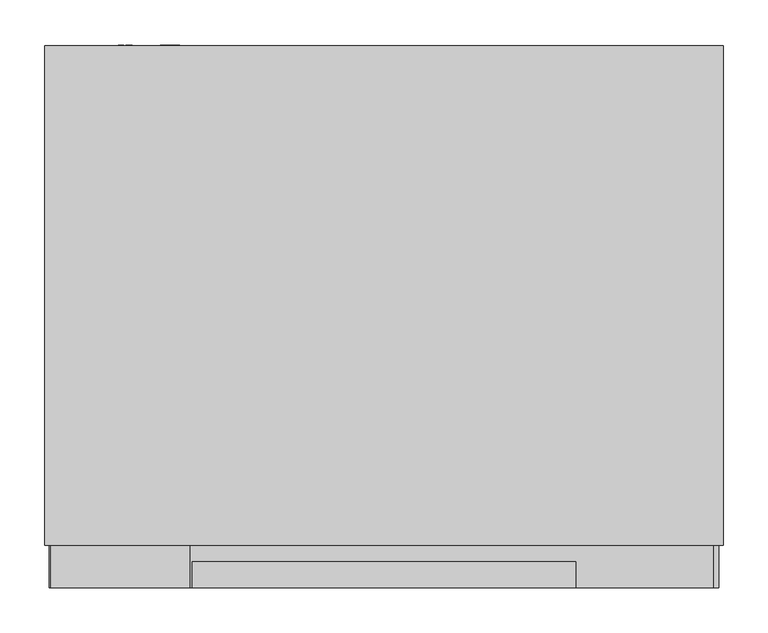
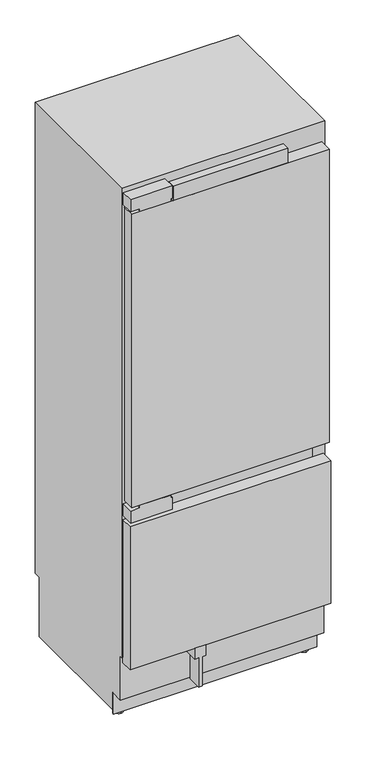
"""IFC4 building model written with IfcOpenShell, lengths in millimetres: proxy geometry, 11502870_USA_KF2812Vi : 38281201_USA_11502870_KF2812Vi."""

from ifc_helpers import new_model, si_unit, point, frame, frame_2d, origin, place, context, project, spatial, polyline, circle_curve, trimmed, segment, composite_curve, outline, extrude, source, transform, mapped, element, save
from ifc_brep_helpers import plane_surface, cylinder_surface, advanced_brep


def specialty_equipment_cfb43e8a(model_context):
    return source(origin(), model_context, "Body", "SolidModel", [
        extrude(outline(polyline([(247.0, -133.0), (205.0, -133.0), (205.0, -118.5), (90.0, -118.5), (90.0, -105.5), (205.0, -105.5), (205.0, -91.0), (247.0, -91.0), (247.0, -133.0)])), frame((0.0, 0.0, 0.0), z_axis=(0.0, 1.0, 0.0), x_axis=(0.0, 0.0, 1.0)), (0.0, 0.0, 1.0), 54.0),
        extrude(outline(polyline([(-367.0, 47.0), (367.0, 47.0), (367.0, 0.0), (-367.0, 0.0), (-367.0, 47.0)])), frame((0.0, 0.0, 883.0), z_axis=(0.0, 0.0, 1.0), x_axis=(1.0, 0.0, 0.0)), (0.0, 0.0, 1.0), 1153.0),
        extrude(outline(polyline([(-373.0, 47.0), (373.0, 47.0), (373.0, 0.0), (-373.0, 0.0), (-373.0, 47.0)])), frame((0.0, 0.0, 247.0), z_axis=(0.0, 0.0, 1.0), x_axis=(1.0, 0.0, 0.0)), (0.0, 0.0, 1.0), 562.0),
        extrude(outline(polyline([(-213.5, 29.0), (213.5, 29.0), (213.5, 0.0), (-213.5, 0.0), (-213.5, 29.0)])), frame((0.0, 0.0, 2036.0), z_axis=(0.0, 0.0, 1.0), x_axis=(1.0, 0.0, 0.0)), (0.0, 0.0, 1.0), 56.0),
        extrude(outline(polyline([(180.5, 1973.4), (217.625, 1914.0), (216.4457524, 1914.0), (179.3207524, 1973.4), (180.5, 1973.4)])), frame((-69.0, 0.0, 0.0), z_axis=(1.0, 0.0, 0.0), x_axis=(0.0, 1.0, 0.0)), (0.0, 0.0, 1.0), 138.0),
        extrude(outline(polyline([(544.0, 1998.0), (544.0, 1796.0), (474.0, 1796.0), (433.0, 1907.0), (222.0, 1907.0), (177.0, 1979.0), (129.0, 1998.0), (544.0, 1998.0)])), frame((-332.0, 0.0, 0.0), z_axis=(1.0, 0.0, 0.0), x_axis=(0.0, 1.0, 0.0)), (0.0, 0.0, 1.0), 664.0),
        extrude(outline(polyline([(-332.0, 544.0), (332.0, 544.0), (332.0, 519.0), (-332.0, 519.0), (-332.0, 544.0)])), frame((0.0, 0.0, 303.0), z_axis=(0.0, 0.0, 1.0), x_axis=(1.0, 0.0, 0.0)), (0.0, 0.0, 1.0), 467.0),
        extrude(outline(polyline([(-332.0, 544.0), (332.0, 544.0), (332.0, 47.0), (-332.0, 47.0), (-332.0, 544.0)])), frame((0.0, 0.0, 770.0), z_axis=(0.0, 0.0, 1.0), x_axis=(1.0, 0.0, 0.0)), (0.0, 0.0, 1.0), 144.0),
        extrude(outline(polyline([(46.0510837, -237.101717), (37.4134902, -239.1745179), (46.0453554, -241.6868463), (46.0453554, -243.5601414), (37.4089549, -246.0799633), (46.0493903, -248.1581876), (46.0493903, -249.4649805), (36.0005458, -246.7156324), (36.0005458, -245.372208), (44.8261022, -242.6342221), (35.9987467, -240.0620509), (35.9987287, -238.5451466), (46.0510837, -235.800191), (46.0510837, -237.101717)])), frame((0.0, 604.0, 0.0), z_axis=(0.0, 1.0, 0.0), x_axis=(0.0, 0.0, 1.0)), (0.0, 0.0, 1.0), 1.0),
        extrude(outline(polyline([(46.0485238, -228.7401503), (41.1363122, -228.7401503), (46.0468162, -233.884602), (46.0468162, -235.6328316), (41.9156889, -231.3260313), (36.000035, -235.8032231), (36.000035, -234.2795519), (41.0742849, -230.4391666), (39.4525334, -228.7395503), (35.9999292, -228.7395503), (35.9999292, -227.4795491), (46.0485238, -227.4795491), (46.0485238, -228.7401503)])), frame((0.0, 604.0, 0.0), z_axis=(0.0, 1.0, 0.0), x_axis=(0.0, 0.0, 1.0)), (0.0, 0.0, 1.0), 1.0),
        extrude(outline(composite_curve([segment(trimmed(circle_curve(frame_2d((41.0, -238.0)), 7.5), [point((33.5, -238.0))], [point((48.5, -238.0))], False, "CARTESIAN"), True, "CONTINUOUS"), segment(trimmed(circle_curve(frame_2d((41.0, -238.0)), 7.5), [point((48.5, -238.0))], [point((33.5, -238.0))], False, "CARTESIAN"), True, "CONTINUOUS")], self_intersect=False)), frame((0.0, 577.0, 0.0), z_axis=(0.0, 1.0, 0.0), x_axis=(0.0, 0.0, 1.0)), (0.0, 0.0, 1.0), 27.0),
        extrude(outline(polyline([(2095.0, -371.5), (2047.0, -371.5), (2047.0, -337.5), (2036.5, -337.5), (2036.5, -222.5), (2047.0, -222.5), (2047.0, -216.5), (2095.0, -216.5), (2095.0, -371.5)])), frame((0.0, 0.0, 0.0), z_axis=(0.0, 1.0, 0.0), x_axis=(0.0, 0.0, 1.0)), (0.0, 0.0, 1.0), 47.0),
        extrude(outline(polyline([(871.0, -371.5), (823.0, -371.5), (823.0, -216.5), (871.0, -216.5), (871.0, -222.5), (881.0, -222.5), (881.0, -337.5), (871.0, -337.5), (871.0, -371.5)])), frame((0.0, 0.0, 0.0), z_axis=(0.0, 1.0, 0.0), x_axis=(0.0, 0.0, 1.0)), (0.0, 0.0, 1.0), 47.0),
        extrude(outline(polyline([(99.0373308, -287.7645771), (97.7615342, -287.7645771), (97.7615342, -281.8195541), (94.7968516, -281.8195541), (94.7968516, -287.469579), (93.5246295, -287.469579), (93.5246295, -281.8415693), (90.2570046, -281.8415693), (90.2570046, -287.9619689), (88.9546219, -287.9619689), (88.9546219, -280.5443524), (99.0373308, -280.5443524), (99.0373308, -287.7645771)])), frame((0.0, 604.0, 0.0), z_axis=(0.0, 1.0, 0.0), x_axis=(0.0, 0.0, 1.0)), (0.0, 0.0, 1.0), 1.0),
        extrude(outline(polyline([(99.0458, -291.0619704), (90.2663944, -291.0619704), (90.2663944, -296.1145879), (89.0134802, -296.1145879), (89.0134802, -289.8423809), (99.0458, -289.8423809), (99.0458, -291.0619704)])), frame((0.0, 604.0, 0.0), z_axis=(0.0, 1.0, 0.0), x_axis=(0.0, 0.0, 1.0)), (0.0, 0.0, 1.0), 1.0),
        extrude(outline(composite_curve([segment(trimmed(circle_curve(frame_2d((94.0, -288.0)), 7.5), [point((86.5, -288.0))], [point((101.5, -288.0))], False, "CARTESIAN"), True, "CONTINUOUS"), segment(trimmed(circle_curve(frame_2d((94.0, -288.0)), 7.5), [point((101.5, -288.0))], [point((86.5, -288.0))], False, "CARTESIAN"), True, "CONTINUOUS")], self_intersect=False)), frame((0.0, 577.0, 0.0), z_axis=(0.0, 1.0, 0.0), x_axis=(0.0, 0.0, 1.0)), (0.0, 0.0, 1.0), 27.0),
        extrude(outline(polyline([(-378.0, 104.0), (378.0, 104.0), (378.0, 99.0), (-378.0, 99.0), (-378.0, 104.0)])), frame((0.0, 0.0, 14.0), z_axis=(0.0, 0.0, 1.0), x_axis=(1.0, 0.0, 0.0)), (0.0, 0.0, 1.0), 83.0),
        advanced_brep(
        [(-344.0, 139.0, 0.0), (-344.0, 109.0, 0.0), (-344.0, 139.0, 7.0), (-344.0, 109.0, 7.0), (-344.0, 128.7, 7.0), (-344.0, 119.3, 7.0), (-344.0, 128.7, 28.0), (-344.0, 119.3, 28.0)],
        [
            (0, 1, circle_curve(frame((-344.0, 124.0, 0.0), z_axis=(0.0, 0.0, -1.0), x_axis=(1.0, 0.0, 0.0)), 15.0)),
            (1, 0, circle_curve(frame((-344.0, 124.0, 0.0), z_axis=(0.0, 0.0, -1.0), x_axis=(1.0, 0.0, 0.0)), 15.0)),
            (2, 3, circle_curve(frame((-344.0, 124.0, 7.0), z_axis=(0.0, 0.0, 1.0), x_axis=(1.0, 0.0, 0.0)), 15.0)),
            (3, 2, circle_curve(frame((-344.0, 124.0, 7.0), z_axis=(0.0, 0.0, 1.0), x_axis=(1.0, 0.0, 0.0)), 15.0)),
            (4, 5, circle_curve(frame((-344.0, 124.0, 7.0), z_axis=(0.0, 0.0, -1.0), x_axis=(0.0, -1.0, 0.0)), 4.7)),
            (5, 4, circle_curve(frame((-344.0, 124.0, 7.0), z_axis=(0.0, 0.0, -1.0), x_axis=(0.0, -1.0, 0.0)), 4.7)),
            (0, 2),
            (3, 1),
            (6, 7, circle_curve(frame((-344.0, 124.0, 28.0), z_axis=(0.0, 0.0, 1.0), x_axis=(0.0, -1.0, 0.0)), 4.7)),
            (7, 6, circle_curve(frame((-344.0, 124.0, 28.0), z_axis=(0.0, 0.0, 1.0), x_axis=(0.0, -1.0, 0.0)), 4.7)),
            (7, 5),
            (4, 6),
        ],
        [
            plane_surface(frame((-329.0, 124.0, 0.0), z_axis=(0.0, 0.0, -1.0), x_axis=(0.0, -1.0, 0.0))),
            plane_surface(frame((-329.0, 124.0, 7.0), z_axis=(0.0, 0.0, 1.0), x_axis=(0.0, 1.0, 0.0))),
            cylinder_surface(frame((-344.0, 124.0, 7.0), z_axis=(0.0, 0.0, -1.0), x_axis=(1.0, 0.0, 0.0)), 15.0),
            plane_surface(frame((-344.0, 119.3, 28.0), z_axis=(0.0, 0.0, 1.0), x_axis=(1.0, 0.0, 0.0))),
            cylinder_surface(frame((-344.0, 124.0, 28.0), z_axis=(0.0, 0.0, -1.0), x_axis=(0.0, -1.0, 0.0)), 4.7),
        ],
        [
            (0, [[1, 2]]),
            (1, [[3, 4], [5, 6]]),
            (2, [[-1, 7, -4, 8]]),
            (2, [[-2, -8, -3, -7]]),
            (3, [[9, 10]]),
            (4, [[-10, 11, -5, 12]]),
            (4, [[-9, -12, -6, -11]]),
        ],
    ),
        advanced_brep(
        [(344.0, 139.0, 0.0), (344.0, 109.0, 0.0), (344.0, 139.0, 7.0), (344.0, 109.0, 7.0), (344.0, 128.7, 7.0), (344.0, 119.3, 7.0), (344.0, 128.7, 28.0), (344.0, 119.3, 28.0)],
        [
            (0, 1, circle_curve(frame((344.0, 124.0, 0.0), z_axis=(0.0, 0.0, -1.0), x_axis=(1.0, 0.0, 0.0)), 15.0)),
            (1, 0, circle_curve(frame((344.0, 124.0, 0.0), z_axis=(0.0, 0.0, -1.0), x_axis=(1.0, 0.0, 0.0)), 15.0)),
            (2, 3, circle_curve(frame((344.0, 124.0, 7.0), z_axis=(0.0, 0.0, 1.0), x_axis=(1.0, 0.0, 0.0)), 15.0)),
            (3, 2, circle_curve(frame((344.0, 124.0, 7.0), z_axis=(0.0, 0.0, 1.0), x_axis=(1.0, 0.0, 0.0)), 15.0)),
            (4, 5, circle_curve(frame((344.0, 124.0, 7.0), z_axis=(0.0, 0.0, -1.0), x_axis=(0.0, -1.0, 0.0)), 4.7)),
            (5, 4, circle_curve(frame((344.0, 124.0, 7.0), z_axis=(0.0, 0.0, -1.0), x_axis=(0.0, -1.0, 0.0)), 4.7)),
            (0, 2),
            (3, 1),
            (6, 7, circle_curve(frame((344.0, 124.0, 28.0), z_axis=(0.0, 0.0, 1.0), x_axis=(0.0, -1.0, 0.0)), 4.7)),
            (7, 6, circle_curve(frame((344.0, 124.0, 28.0), z_axis=(0.0, 0.0, 1.0), x_axis=(0.0, -1.0, 0.0)), 4.7)),
            (7, 5),
            (4, 6),
        ],
        [
            plane_surface(frame((-329.0, 124.0, 0.0), z_axis=(0.0, 0.0, -1.0), x_axis=(0.0, -1.0, 0.0))),
            plane_surface(frame((-329.0, 124.0, 7.0), z_axis=(0.0, 0.0, 1.0), x_axis=(0.0, 1.0, 0.0))),
            cylinder_surface(frame((344.0, 124.0, 7.0), z_axis=(0.0, 0.0, -1.0), x_axis=(1.0, 0.0, 0.0)), 15.0),
            plane_surface(frame((-344.0, 119.3, 28.0), z_axis=(0.0, 0.0, 1.0), x_axis=(1.0, 0.0, 0.0))),
            cylinder_surface(frame((344.0, 124.0, 28.0), z_axis=(0.0, 0.0, -1.0), x_axis=(0.0, -1.0, 0.0)), 4.7),
        ],
        [
            (0, [[1, 2]]),
            (1, [[3, 4], [5, 6]]),
            (2, [[-1, 7, -4, 8]]),
            (2, [[-2, -8, -3, -7]]),
            (3, [[9, 10]]),
            (4, [[-10, 11, -5, 12]]),
            (4, [[-9, -12, -6, -11]]),
        ],
    ),
        advanced_brep(
        [(378.0, 47.0, 2114.0), (378.0, 47.0, 267.0), (378.0, 54.0, 267.0), (378.0, 54.0, 97.0), (378.0, 104.0, 97.0), (378.0, 104.0, 28.0), (378.0, 577.0, 28.0), (378.0, 577.0, 263.0), (378.0, 604.0, 263.0), (378.0, 604.0, 2114.0), (-378.0, 47.0, 2114.0), (-378.0, 604.0, 2114.0), (-378.0, 604.0, 263.0), (-378.0, 577.0, 263.0), (-378.0, 577.0, 28.0), (-378.0, 104.0, 28.0), (-378.0, 104.0, 97.0), (-378.0, 54.0, 97.0), (-378.0, 54.0, 267.0), (-378.0, 47.0, 267.0), (318.0, 577.0, 28.0), (318.0, 577.0, 14.0), (-318.0, 577.0, 14.0), (-318.0, 577.0, 28.0), (318.0, 104.0, 14.0), (-318.0, 104.0, 14.0), (-318.0, 104.0, 28.0), (318.0, 104.0, 28.0), (332.0, 47.0, 1998.0), (332.0, 47.0, 303.0), (-332.0, 47.0, 303.0), (-332.0, 47.0, 1998.0), (332.0, 544.0, 1998.0), (-332.0, 544.0, 1998.0), (-332.0, 544.0, 303.0), (332.0, 544.0, 303.0), (-336.5, 202.8193473, 28.0), (-355.5, 202.8193473, 28.0), (-355.5, 153.1806527, 28.0), (-336.5, 153.1806527, 28.0), (-356.0, 525.8193473, 28.0), (-356.0, 476.1806527, 28.0), (-340.0, 476.1806527, 28.0), (-340.0, 525.8193473, 28.0), (355.5, 153.1806527, 28.0), (355.5, 202.8193473, 28.0), (336.5, 202.8193473, 28.0), (336.5, 153.1806527, 28.0), (340.0, 525.8193473, 28.0), (340.0, 476.1806527, 28.0), (356.0, 476.1806527, 28.0), (356.0, 525.8193473, 28.0), (-336.5, 203.0, 25.0), (-336.5, 153.0, 25.0), (-355.5, 153.0, 25.0), (-355.5, 203.0, 25.0), (-336.5, 178.0, 25.0), (-355.5, 178.0, 25.0), (355.5, 178.0, 25.0), (355.5, 153.0, 25.0), (355.5, 203.0, 25.0), (336.5, 203.0, 25.0), (336.5, 153.0, 25.0), (336.5, 178.0, 25.0), (-356.0, 526.0, 25.0), (-356.0, 476.0, 25.0), (-356.0, 501.0, 25.0), (-340.0, 526.0, 25.0), (-340.0, 476.0, 25.0), (-340.0, 501.0, 25.0), (340.0, 526.0, 25.0), (340.0, 476.0, 25.0), (340.0, 501.0, 25.0), (356.0, 526.0, 25.0), (356.0, 476.0, 25.0), (356.0, 501.0, 25.0)],
        [
            (0, 1),
            (1, 2),
            (2, 3),
            (3, 4),
            (4, 5),
            (5, 6),
            (6, 7),
            (7, 8),
            (8, 9),
            (9, 0),
            (10, 11),
            (11, 12),
            (12, 13),
            (13, 14),
            (14, 15),
            (15, 16),
            (16, 17),
            (17, 18),
            (18, 19),
            (19, 10),
            (9, 11),
            (10, 0),
            (8, 12),
            (7, 13),
            (6, 20),
            (20, 21),
            (21, 22),
            (22, 23),
            (23, 14),
            (21, 24),
            (24, 25),
            (25, 22),
            (4, 16),
            (15, 26),
            (26, 25),
            (24, 27),
            (27, 5),
            (3, 17),
            (2, 18),
            (1, 19),
            (28, 29),
            (29, 30),
            (30, 31),
            (31, 28),
            (32, 33),
            (33, 34),
            (34, 35),
            (35, 32),
            (35, 29),
            (28, 32),
            (34, 30),
            (33, 31),
            (23, 26),
            (36, 37),
            (37, 38),
            (38, 39),
            (39, 36),
            (40, 41),
            (41, 42),
            (42, 43),
            (43, 40),
            (27, 20),
            (44, 45),
            (45, 46),
            (46, 47),
            (47, 44),
            (48, 49),
            (49, 50),
            (50, 51),
            (51, 48),
            (52, 53, circle_curve(frame((-336.5, 178.0, 25.0), z_axis=(-1.0, 0.0, 0.0), x_axis=(0.0, -1.0, 0.0)), 25.0)),
            (53, 54),
            (54, 55, circle_curve(frame((-355.5, 178.0, 25.0), z_axis=(1.0, 0.0, 0.0), x_axis=(0.0, -1.0, 0.0)), 25.0)),
            (55, 52),
            (53, 39, circle_curve(frame((-336.5, 178.0, 25.0), z_axis=(-1.0, 0.0, 0.0), x_axis=(0.0, -1.0, 0.0)), 25.0)),
            (38, 54, circle_curve(frame((-355.5, 178.0, 25.0), z_axis=(1.0, 0.0, 0.0), x_axis=(0.0, -1.0, 0.0)), 25.0)),
            (55, 37, circle_curve(frame((-355.5, 178.0, 25.0), z_axis=(1.0, 0.0, 0.0), x_axis=(0.0, -1.0, 0.0)), 25.0)),
            (36, 52, circle_curve(frame((-336.5, 178.0, 25.0), z_axis=(-1.0, 0.0, 0.0), x_axis=(0.0, -1.0, 0.0)), 25.0)),
            (52, 56),
            (56, 53),
            (54, 57),
            (57, 55),
            (58, 59),
            (59, 60, circle_curve(frame((355.5, 178.0, 25.0), z_axis=(1.0, 0.0, 0.0), x_axis=(0.0, -1.0, 0.0)), 25.0)),
            (60, 58),
            (60, 45, circle_curve(frame((355.5, 178.0, 25.0), z_axis=(1.0, 0.0, 0.0), x_axis=(0.0, -1.0, 0.0)), 25.0)),
            (44, 59, circle_curve(frame((355.5, 178.0, 25.0), z_axis=(1.0, 0.0, 0.0), x_axis=(0.0, -1.0, 0.0)), 25.0)),
            (61, 62, circle_curve(frame((336.5, 178.0, 25.0), z_axis=(-1.0, 0.0, 0.0), x_axis=(0.0, -1.0, 0.0)), 25.0)),
            (62, 63),
            (63, 61),
            (62, 47, circle_curve(frame((336.5, 178.0, 25.0), z_axis=(-1.0, 0.0, 0.0), x_axis=(0.0, -1.0, 0.0)), 25.0)),
            (46, 61, circle_curve(frame((336.5, 178.0, 25.0), z_axis=(-1.0, 0.0, 0.0), x_axis=(0.0, -1.0, 0.0)), 25.0)),
            (64, 65, circle_curve(frame((-356.0, 501.0, 25.0), z_axis=(-1.0, 0.0, 0.0), x_axis=(0.0, -1.0, 0.0)), 25.0)),
            (65, 66),
            (66, 64),
            (65, 41, circle_curve(frame((-356.0, 501.0, 25.0), z_axis=(-1.0, 0.0, 0.0), x_axis=(0.0, -1.0, 0.0)), 25.0)),
            (40, 64, circle_curve(frame((-356.0, 501.0, 25.0), z_axis=(-1.0, 0.0, 0.0), x_axis=(0.0, -1.0, 0.0)), 25.0)),
            (64, 67),
            (67, 68, circle_curve(frame((-340.0, 501.0, 25.0), z_axis=(-1.0, 0.0, 0.0), x_axis=(0.0, -1.0, 0.0)), 25.0)),
            (68, 65),
            (43, 67, circle_curve(frame((-340.0, 501.0, 25.0), z_axis=(-1.0, 0.0, 0.0), x_axis=(0.0, -1.0, 0.0)), 25.0)),
            (68, 42, circle_curve(frame((-340.0, 501.0, 25.0), z_axis=(-1.0, 0.0, 0.0), x_axis=(0.0, -1.0, 0.0)), 25.0)),
            (67, 69),
            (69, 68),
            (70, 71, circle_curve(frame((340.0, 501.0, 25.0), z_axis=(-1.0, 0.0, 0.0), x_axis=(0.0, -1.0, 0.0)), 25.0)),
            (71, 72),
            (72, 70),
            (71, 49, circle_curve(frame((340.0, 501.0, 25.0), z_axis=(-1.0, 0.0, 0.0), x_axis=(0.0, -1.0, 0.0)), 25.0)),
            (48, 70, circle_curve(frame((340.0, 501.0, 25.0), z_axis=(-1.0, 0.0, 0.0), x_axis=(0.0, -1.0, 0.0)), 25.0)),
            (70, 73),
            (73, 74, circle_curve(frame((356.0, 501.0, 25.0), z_axis=(-1.0, 0.0, 0.0), x_axis=(0.0, -1.0, 0.0)), 25.0)),
            (74, 71),
            (51, 73, circle_curve(frame((356.0, 501.0, 25.0), z_axis=(-1.0, 0.0, 0.0), x_axis=(0.0, -1.0, 0.0)), 25.0)),
            (74, 50, circle_curve(frame((356.0, 501.0, 25.0), z_axis=(-1.0, 0.0, 0.0), x_axis=(0.0, -1.0, 0.0)), 25.0)),
            (73, 75),
            (75, 74),
            (59, 62),
            (61, 60),
        ],
        [
            plane_surface(frame((378.0, 604.0, 2114.0), z_axis=(1.0, 0.0, 0.0), x_axis=(0.0, -1.0, 0.0))),
            plane_surface(frame((-378.0, 604.0, 2114.0), z_axis=(-1.0, 0.0, 0.0), x_axis=(0.0, 1.0, 0.0))),
            plane_surface(frame((-378.0, 47.0, 2114.0), z_axis=(0.0, 0.0, 1.0), x_axis=(1.0, 0.0, 0.0))),
            plane_surface(frame((-378.0, 604.0, 2114.0), z_axis=(0.0, 1.0, 0.0), x_axis=(1.0, 0.0, 0.0))),
            plane_surface(frame((-378.0, 604.0, 263.0), z_axis=(0.0, 0.0, -1.0), x_axis=(1.0, 0.0, 0.0))),
            plane_surface(frame((-378.0, 577.0, 263.0), z_axis=(0.0, 1.0, 0.0), x_axis=(1.0, 0.0, 0.0))),
            plane_surface(frame((-378.0, 577.0, 14.0), z_axis=(0.0, 0.0, -1.0), x_axis=(1.0, 0.0, 0.0))),
            plane_surface(frame((-378.0, 104.0, 14.0), z_axis=(0.0, -1.0, 0.0), x_axis=(1.0, 0.0, 0.0))),
            plane_surface(frame((-378.0, 104.0, 97.0), z_axis=(0.0, 0.0, -1.0), x_axis=(1.0, 0.0, 0.0))),
            plane_surface(frame((-378.0, 54.0, 97.0), z_axis=(0.0, -1.0, 0.0), x_axis=(1.0, 0.0, 0.0))),
            plane_surface(frame((-378.0, 54.0, 267.0), z_axis=(0.0, 0.0, -1.0), x_axis=(1.0, 0.0, 0.0))),
            plane_surface(frame((-378.0, 47.0, 267.0), z_axis=(0.0, -1.0, 0.0), x_axis=(1.0, 0.0, 0.0))),
            plane_surface(frame((332.0, 544.0, 1998.0), z_axis=(0.0, -1.0, 0.0), x_axis=(0.0, 0.0, -1.0))),
            plane_surface(frame((332.0, 544.0, 1998.0), z_axis=(-1.0, 0.0, 0.0), x_axis=(0.0, -1.0, 0.0))),
            plane_surface(frame((332.0, 544.0, 303.0), z_axis=(0.0, 0.0, 1.0), x_axis=(0.0, -1.0, 0.0))),
            plane_surface(frame((-332.0, 544.0, 303.0), z_axis=(1.0, 0.0, 0.0), x_axis=(0.0, -1.0, 0.0))),
            plane_surface(frame((-332.0, 544.0, 1998.0), z_axis=(0.0, 0.0, -1.0), x_axis=(0.0, -1.0, 0.0))),
            plane_surface(frame((-378.0, 604.0, 28.0), z_axis=(0.0, 0.0, -1.0), x_axis=(-1.0, 0.0, 0.0))),
            plane_surface(frame((-318.0, 104.0, 28.0), z_axis=(-1.0, 0.0, 0.0), x_axis=(0.0, 0.0, -1.0))),
            plane_surface(frame((318.0, 604.0, 28.0), z_axis=(1.0, 0.0, 0.0), x_axis=(0.0, 0.0, -1.0))),
            cylinder_surface(frame((-470.6988927, 178.0, 25.0), z_axis=(1.0, 0.0, 0.0), x_axis=(0.0, -1.0, 0.0)), 25.0),
            plane_surface(frame((-336.5, 178.0, 25.0), z_axis=(1.0, 0.0, 0.0), x_axis=(0.0, -1.0, 0.0))),
            plane_surface(frame((-355.5, 178.0, 25.0), z_axis=(-1.0, 0.0, 0.0), x_axis=(0.0, -1.0, 0.0))),
            plane_surface(frame((355.5, 178.0, 25.0), z_axis=(1.0, 0.0, 0.0), x_axis=(0.0, -1.0, 0.0))),
            plane_surface(frame((336.5, 178.0, 25.0), z_axis=(-1.0, 0.0, 0.0), x_axis=(0.0, -1.0, 0.0))),
            plane_surface(frame((-356.0, 501.0, 25.0), z_axis=(-1.0, 0.0, 0.0), x_axis=(0.0, -1.0, 0.0))),
            cylinder_surface(frame((-470.6988927, 501.0, 25.0), z_axis=(1.0, 0.0, 0.0), x_axis=(0.0, -1.0, 0.0)), 25.0),
            plane_surface(frame((-340.0, 501.0, 25.0), z_axis=(1.0, 0.0, 0.0), x_axis=(0.0, -1.0, 0.0))),
            plane_surface(frame((340.0, 501.0, 25.0), z_axis=(-1.0, 0.0, 0.0), x_axis=(0.0, -1.0, 0.0))),
            plane_surface(frame((356.0, 501.0, 25.0), z_axis=(1.0, 0.0, 0.0), x_axis=(0.0, -1.0, 0.0))),
        ],
        [
            (0, [[1, 2, 3, 4, 5, 6, 7, 8, 9, 10]]),
            (1, [[11, 12, 13, 14, 15, 16, 17, 18, 19, 20]]),
            (2, [[-10, 21, -11, 22]]),
            (3, [[-9, 23, -12, -21]]),
            (4, [[-8, 24, -13, -23]]),
            (5, [[-24, -7, 25, 26, 27, 28, 29, -14]]),
            (6, [[-27, 30, 31, 32]]),
            (7, [[33, -16, 34, 35, -31, 36, 37, -5]]),
            (8, [[-4, 38, -17, -33]]),
            (9, [[-3, 39, -18, -38]]),
            (10, [[-2, 40, -19, -39]]),
            (11, [[-1, -22, -20, -40], [41, 42, 43, 44]]),
            (12, [[45, 46, 47, 48]]),
            (13, [[-48, 49, -41, 50]]),
            (14, [[-47, 51, -42, -49]]),
            (15, [[-46, 52, -43, -51]]),
            (16, [[-45, -50, -44, -52]]),
            (17, [[53, -34, -15, -29], [54, 55, 56, 57], [58, 59, 60, 61]]),
            (17, [[62, -25, -6, -37], [63, 64, 65, 66], [67, 68, 69, 70]]),
            (18, [[-53, -28, -32, -35]]),
            (19, [[-62, -36, -30, -26]]),
            (20, [[71, 72, 73, 74]]),
            (20, [[-72, 75, -56, 76]]),
            (20, [[-74, 77, -54, 78]]),
            (21, [[-71, 79, 80]]),
            (21, [[-80, -79, -78, -57, -75]]),
            (22, [[-73, 81, 82]]),
            (22, [[-81, -76, -55, -77, -82]]),
            (23, [[83, 84, 85]]),
            (23, [[-83, -85, 86, -63, 87]]),
            (24, [[88, 89, 90]]),
            (24, [[-89, 91, -65, 92, -90]]),
            (25, [[93, 94, 95]]),
            (25, [[-94, 96, -58, 97, -95]]),
            (26, [[-93, 98, 99, 100]]),
            (26, [[-98, -97, -61, 101]]),
            (26, [[-100, 102, -59, -96]]),
            (27, [[-99, 103, 104]]),
            (27, [[-104, -103, -101, -60, -102]]),
            (28, [[105, 106, 107]]),
            (28, [[-106, 108, -67, 109, -107]]),
            (26, [[-105, 110, 111, 112]]),
            (26, [[-110, -109, -70, 113]]),
            (26, [[-112, 114, -68, -108]]),
            (29, [[-111, 115, 116]]),
            (29, [[-116, -115, -113, -69, -114]]),
            (20, [[-84, 117, -88, 118]]),
            (20, [[-117, -87, -66, -91]]),
            (20, [[-118, -92, -64, -86]]),
        ],
    ),
    ])


if __name__ == "__main__":
    model = new_model("IFC4")
    model_context = context("Model", 3, world=origin())
    ifc_project = project(units=[si_unit("LENGTHUNIT", "METRE", prefix="MILLI")], contexts=[model_context])
    site = spatial("IfcSite", under=ifc_project)
    building = spatial("IfcBuilding", under=site)
    placement = place(None, origin())
    specialty_equipment_shape = specialty_equipment_cfb43e8a(model_context)
    element("IfcBuildingElementProxy", 1, Name="11502870_USA_KF2812Vi : 38281201_USA_11502870_KF2812Vi", ObjectType="11502870_USA_KF2812Vi : 38281201_USA_11502870_KF2812Vi", at=placement, inside=building, context=model_context, shape_type="MappedRepresentation", body=[
        mapped(specialty_equipment_shape, transform((0.0, 0.0, 0.0), x_axis=(1.0, 0.0, 0.0), y_axis=(0.0, 1.0, 0.0), z_axis=(0.0, 0.0, 1.0))),
    ])
    save(model, "model.ifc")
